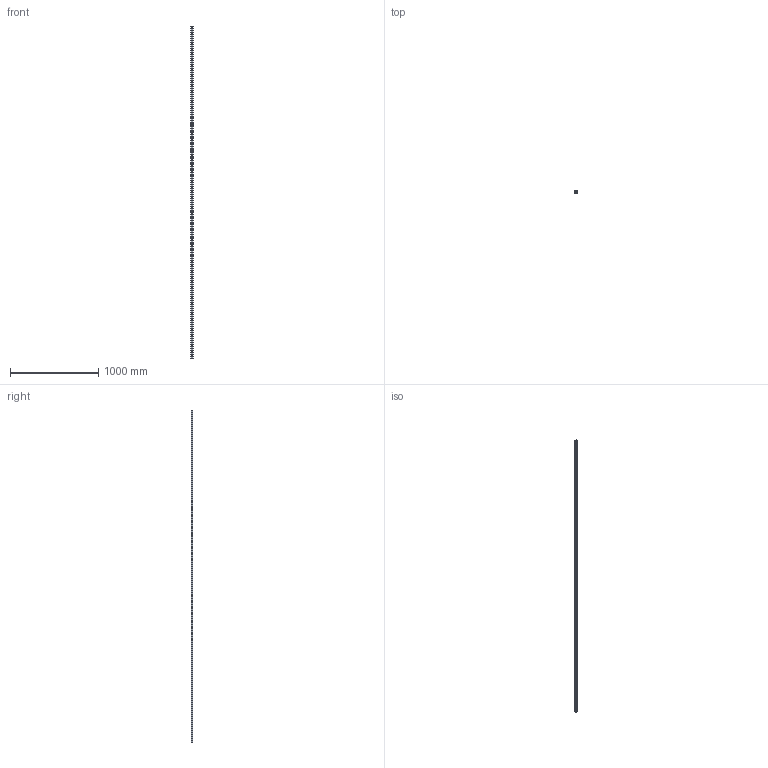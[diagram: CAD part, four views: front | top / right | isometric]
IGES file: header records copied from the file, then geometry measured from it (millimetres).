
Start section: SolidWorks IGES file using analytic representation for surfaces
Global section: file name: C:\Users\IanO\Desktop\L1016_v2\L1016.BL25_v2\L1016.BL25_v2_20160611_IGES\L1016.BL25-3760.igs; native system: SolidWorks 2017; preprocessor: SolidWorks 2017; author: IanO; date: 190612.131649; units: millimetre
Bounding box: 23 x 19.2 x 3760 mm (x, y, z)
Surface area: 355508 mm2 (no closed solid volume)
Topology: 0 solids, 0 shells, 341 faces, 9240 edges, 9240 vertices
Faces by surface type: revolution 256, bspline 85
